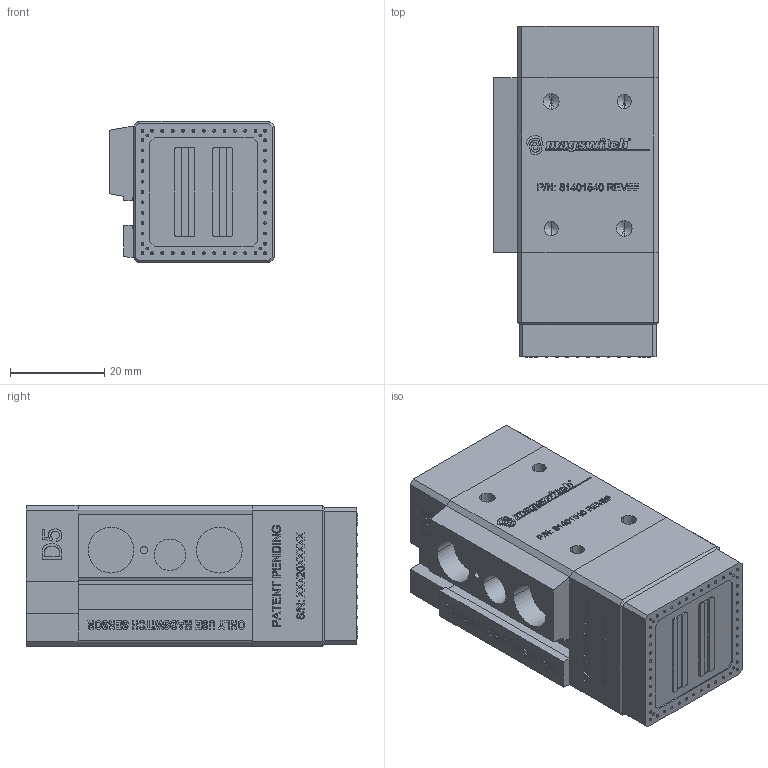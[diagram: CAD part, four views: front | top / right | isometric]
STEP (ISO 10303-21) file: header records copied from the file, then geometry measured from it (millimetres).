
FILE_DESCRIPTION (( 'STEP AP203' ), '1' );
FILE_NAME ('D5 with friction pad without sensor_s.STEP', '2023-11-07T22:03:55', ( '' ), ( '' ), 'SwSTEP 2.0', 'SolidWorks 2022', '' );
FILE_SCHEMA (( 'CONFIG_CONTROL_DESIGN' ));
Products named in the file (1): D5 with friction pad without sensor_s
Bounding box: 35 x 70.4 x 30 mm (x, y, z)
Volume: 61775.4 mm3; surface area: 23086.7 mm2
Topology: 15 solids, 23 shells, 1958 faces, 5060 edges, 3295 vertices
Faces by surface type: plane 1058, bspline 376, cylinder 286, cone 118, torus 104, sphere 16
Entity records: 81247 total; most frequent: CARTESIAN_POINT 36300, ORIENTED_EDGE 9988, DIRECTION 7890, EDGE_CURVE 4994, VERTEX_POINT 3295, LINE 3272, VECTOR 3272, AXIS2_PLACEMENT_3D 2309
